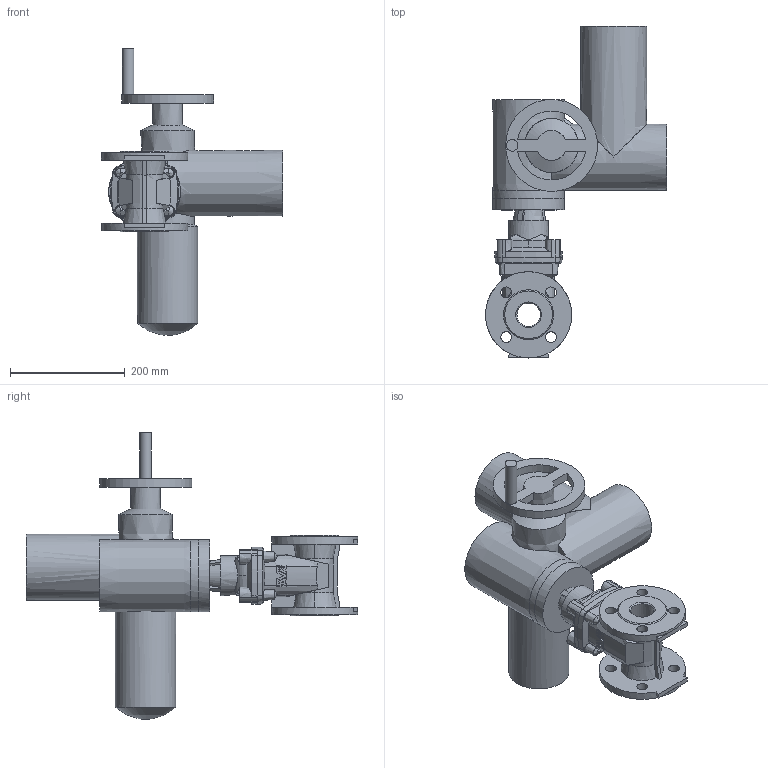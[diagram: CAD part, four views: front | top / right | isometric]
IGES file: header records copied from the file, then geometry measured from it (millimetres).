
Start section: SolidWorks IGES file using analytic representation for surfaces
Global section: file name: \\avksan2\techshare\PBM outline export from Enovia\O_15_40_DN040_X1X_SA07.6_AA0.igs; native system: SolidWorks 2012; preprocessor: SolidWorks 2012; author: pbm; date: 170320.130721; units: inch
Bounding box: 315 x 577.5 x 499 mm (x, y, z)
Surface area: 534781.1 mm2 (no closed solid volume)
Topology: 0 solids, 0 shells, 266 faces, 1493 edges, 1453 vertices
Faces by surface type: revolution 153, bspline 113
